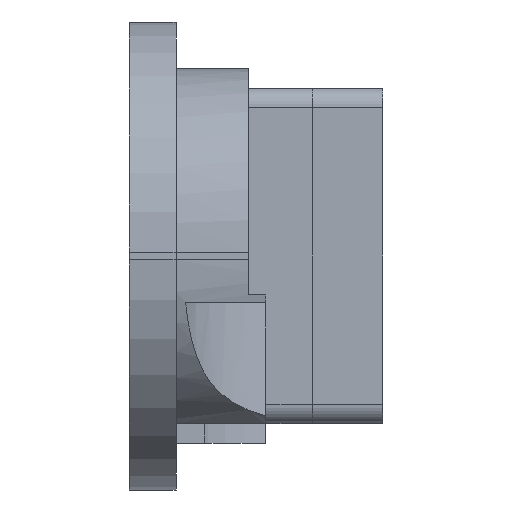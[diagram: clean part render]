
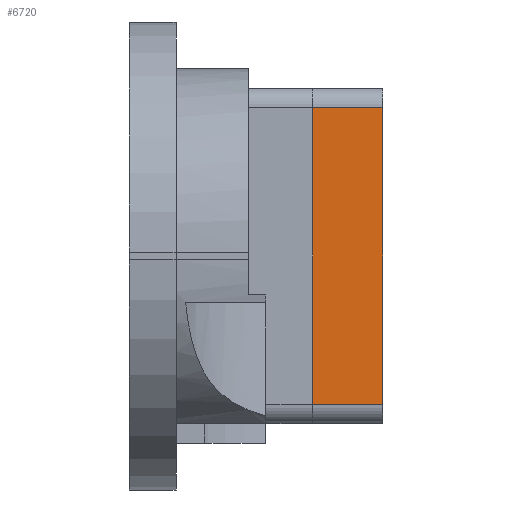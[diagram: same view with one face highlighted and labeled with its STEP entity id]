
A CAD part, front view. The second image highlights one B-rep face of the part: STEP entity #6720.
In plain terms, the highlighted planar face has unit normal (0, -1, 0).
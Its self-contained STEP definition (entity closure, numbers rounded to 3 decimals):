
#3419 = PLANE('',#3420);
#3420 = AXIS2_PLACEMENT_3D('',#3421,#3422,#3423);
#3421 = CARTESIAN_POINT('',(-35.8,-11.,-16.3));
#3422 = DIRECTION('',(1.,0.,-0.));
#3423 = DIRECTION('',(0.,0.,1.));
#3447 = CYLINDRICAL_SURFACE('',#3448,0.5);
#3448 = AXIS2_PLACEMENT_3D('',#3449,#3450,#3451);
#3449 = CARTESIAN_POINT('',(-35.8,-10.5,-8.2));
#3450 = DIRECTION('',(1.,0.,-0.));
#3451 = DIRECTION('',(0.,-1.,0.));
#3475 = PLANE('',#3476);
#3476 = AXIS2_PLACEMENT_3D('',#3477,#3478,#3479);
#3477 = CARTESIAN_POINT('',(-34.,-11.,-16.3));
#3478 = DIRECTION('',(1.,0.,-0.));
#3479 = DIRECTION('',(0.,0.,1.));
#4368 = CYLINDRICAL_SURFACE('',#4369,0.5);
#4369 = AXIS2_PLACEMENT_3D('',#4370,#4371,#4372);
#4370 = CARTESIAN_POINT('',(-35.8,-10.5,-15.8));
#4371 = DIRECTION('',(1.,0.,-0.));
#4372 = DIRECTION('',(0.,-1.,0.));
#5536 = EDGE_CURVE('',#5537,#5539,#5541,.T.);
#5537 = VERTEX_POINT('',#5538);
#5538 = CARTESIAN_POINT('',(-35.8,-11.,-15.8));
#5539 = VERTEX_POINT('',#5540);
#5540 = CARTESIAN_POINT('',(-35.8,-11.,-8.2));
#5541 = SURFACE_CURVE('',#5542,(#5546,#5553),.PCURVE_S1.);
#5542 = LINE('',#5543,#5544);
#5543 = CARTESIAN_POINT('',(-35.8,-11.,-16.3));
#5544 = VECTOR('',#5545,1.);
#5545 = DIRECTION('',(0.,0.,1.));
#5546 = PCURVE('',#3419,#5547);
#5547 = DEFINITIONAL_REPRESENTATION('',(#5548),#5552);
#5548 = LINE('',#5549,#5550);
#5549 = CARTESIAN_POINT('',(0.,0.));
#5550 = VECTOR('',#5551,1.);
#5551 = DIRECTION('',(1.,0.));
#5552 = ( GEOMETRIC_REPRESENTATION_CONTEXT(2) 
PARAMETRIC_REPRESENTATION_CONTEXT() REPRESENTATION_CONTEXT('2D SPACE',''
  ) );
#5553 = PCURVE('',#5554,#5559);
#5554 = PLANE('',#5555);
#5555 = AXIS2_PLACEMENT_3D('',#5556,#5557,#5558);
#5556 = CARTESIAN_POINT('',(-35.8,-11.,-16.3));
#5557 = DIRECTION('',(-0.,1.,0.));
#5558 = DIRECTION('',(0.,0.,1.));
#5559 = DEFINITIONAL_REPRESENTATION('',(#5560),#5564);
#5560 = LINE('',#5561,#5562);
#5561 = CARTESIAN_POINT('',(0.,0.));
#5562 = VECTOR('',#5563,1.);
#5563 = DIRECTION('',(1.,0.));
#5564 = ( GEOMETRIC_REPRESENTATION_CONTEXT(2) 
PARAMETRIC_REPRESENTATION_CONTEXT() REPRESENTATION_CONTEXT('2D SPACE',''
  ) );
#5643 = EDGE_CURVE('',#5539,#5644,#5646,.T.);
#5644 = VERTEX_POINT('',#5645);
#5645 = CARTESIAN_POINT('',(-34.,-11.,-8.2));
#5646 = SURFACE_CURVE('',#5647,(#5651,#5658),.PCURVE_S1.);
#5647 = LINE('',#5648,#5649);
#5648 = CARTESIAN_POINT('',(-35.8,-11.,-8.2));
#5649 = VECTOR('',#5650,1.);
#5650 = DIRECTION('',(1.,0.,-0.));
#5651 = PCURVE('',#3447,#5652);
#5652 = DEFINITIONAL_REPRESENTATION('',(#5653),#5657);
#5653 = LINE('',#5654,#5655);
#5654 = CARTESIAN_POINT('',(6.283,0.));
#5655 = VECTOR('',#5656,1.);
#5656 = DIRECTION('',(-0.,1.));
#5657 = ( GEOMETRIC_REPRESENTATION_CONTEXT(2) 
PARAMETRIC_REPRESENTATION_CONTEXT() REPRESENTATION_CONTEXT('2D SPACE',''
  ) );
#5658 = PCURVE('',#5554,#5659);
#5659 = DEFINITIONAL_REPRESENTATION('',(#5660),#5664);
#5660 = LINE('',#5661,#5662);
#5661 = CARTESIAN_POINT('',(8.1,0.));
#5662 = VECTOR('',#5663,1.);
#5663 = DIRECTION('',(0.,1.));
#5664 = ( GEOMETRIC_REPRESENTATION_CONTEXT(2) 
PARAMETRIC_REPRESENTATION_CONTEXT() REPRESENTATION_CONTEXT('2D SPACE',''
  ) );
#5697 = EDGE_CURVE('',#5698,#5644,#5700,.T.);
#5698 = VERTEX_POINT('',#5699);
#5699 = CARTESIAN_POINT('',(-34.,-11.,-15.8));
#5700 = SURFACE_CURVE('',#5701,(#5705,#5712),.PCURVE_S1.);
#5701 = LINE('',#5702,#5703);
#5702 = CARTESIAN_POINT('',(-34.,-11.,-16.3));
#5703 = VECTOR('',#5704,1.);
#5704 = DIRECTION('',(0.,0.,1.));
#5705 = PCURVE('',#3475,#5706);
#5706 = DEFINITIONAL_REPRESENTATION('',(#5707),#5711);
#5707 = LINE('',#5708,#5709);
#5708 = CARTESIAN_POINT('',(0.,0.));
#5709 = VECTOR('',#5710,1.);
#5710 = DIRECTION('',(1.,0.));
#5711 = ( GEOMETRIC_REPRESENTATION_CONTEXT(2) 
PARAMETRIC_REPRESENTATION_CONTEXT() REPRESENTATION_CONTEXT('2D SPACE',''
  ) );
#5712 = PCURVE('',#5554,#5713);
#5713 = DEFINITIONAL_REPRESENTATION('',(#5714),#5718);
#5714 = LINE('',#5715,#5716);
#5715 = CARTESIAN_POINT('',(0.,1.8));
#5716 = VECTOR('',#5717,1.);
#5717 = DIRECTION('',(1.,0.));
#5718 = ( GEOMETRIC_REPRESENTATION_CONTEXT(2) 
PARAMETRIC_REPRESENTATION_CONTEXT() REPRESENTATION_CONTEXT('2D SPACE',''
  ) );
#6048 = EDGE_CURVE('',#5537,#5698,#6049,.T.);
#6049 = SURFACE_CURVE('',#6050,(#6054,#6061),.PCURVE_S1.);
#6050 = LINE('',#6051,#6052);
#6051 = CARTESIAN_POINT('',(-35.8,-11.,-15.8));
#6052 = VECTOR('',#6053,1.);
#6053 = DIRECTION('',(1.,0.,-0.));
#6054 = PCURVE('',#4368,#6055);
#6055 = DEFINITIONAL_REPRESENTATION('',(#6056),#6060);
#6056 = LINE('',#6057,#6058);
#6057 = CARTESIAN_POINT('',(0.,0.));
#6058 = VECTOR('',#6059,1.);
#6059 = DIRECTION('',(0.,1.));
#6060 = ( GEOMETRIC_REPRESENTATION_CONTEXT(2) 
PARAMETRIC_REPRESENTATION_CONTEXT() REPRESENTATION_CONTEXT('2D SPACE',''
  ) );
#6061 = PCURVE('',#5554,#6062);
#6062 = DEFINITIONAL_REPRESENTATION('',(#6063),#6067);
#6063 = LINE('',#6064,#6065);
#6064 = CARTESIAN_POINT('',(0.5,0.));
#6065 = VECTOR('',#6066,1.);
#6066 = DIRECTION('',(0.,1.));
#6067 = ( GEOMETRIC_REPRESENTATION_CONTEXT(2) 
PARAMETRIC_REPRESENTATION_CONTEXT() REPRESENTATION_CONTEXT('2D SPACE',''
  ) );
#6720 = ADVANCED_FACE('',(#6721),#5554,.F.);
#6721 = FACE_BOUND('',#6722,.F.);
#6722 = EDGE_LOOP('',(#6723,#6724,#6725,#6726));
#6723 = ORIENTED_EDGE('',*,*,#5697,.F.);
#6724 = ORIENTED_EDGE('',*,*,#6048,.F.);
#6725 = ORIENTED_EDGE('',*,*,#5536,.T.);
#6726 = ORIENTED_EDGE('',*,*,#5643,.T.);
